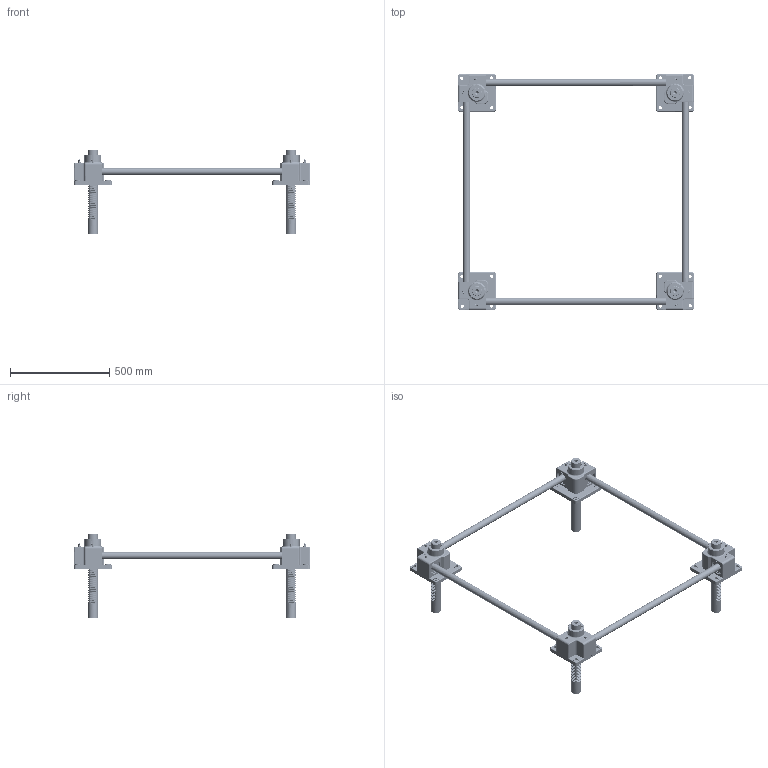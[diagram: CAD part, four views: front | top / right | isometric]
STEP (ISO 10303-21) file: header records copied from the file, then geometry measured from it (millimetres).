
FILE_DESCRIPTION(('STEP AP203'),'1');
FILE_NAME('SP10000-1000x1000-250ST.stp','2016-08-05T05:03:37',(' '),(' '),'Spatial InterOp 3D',' ',' ');
FILE_SCHEMA(('CONFIG_CONTROL_DESIGN'));
Length unit declared in the file: millimetre
Products named in the file (72): SP10000-1000x1000-250ST; Rack Gear(SP-10000); Body.1-Part; SnapRing-68Pie; SnapRing-75Pie; #1849; #1866; #1883; #1900; Nipple; Gear Box.1(NSP-10000); RJ05-4SCJ-610X600-100ST_CAP; LABEL-B.1; ___; 파트18; __; Body.2-Part; #2168; #2185; #2202; #2219; Gear Box.2(NSP-10000); Body.3-Part; #2453; #2470; #2487; #2504; Gear Box.3(NSP-10000); Body.4-Part; #2738; #2755; #2772; #2789; Gear Box.4(NSP-10000); 파트51
Assembly tree (76 placements, depth 6):
  SP10000-1000x1000-250ST
    Rack Gear(SP-10000)  x4
    Body.1-Part
      SnapRing-68Pie
      SnapRing-68Pie
      SnapRing-75Pie
      SnapRing-75Pie
      #1849
      #1866
      #1883
      #1900
      Nipple
      Nipple
      Gear Box.1(NSP-10000)
      __
        ___
          RJ05-4SCJ-610X600-100ST_CAP
            LABEL-B.1
          파트18
    Body.2-Part
      Nipple
      Nipple
      SnapRing-68Pie
      SnapRing-68Pie
      SnapRing-75Pie
      SnapRing-75Pie
      #2168
      #2185
      #2202
      #2219
      Gear Box.2(NSP-10000)
      __
        ___
          RJ05-4SCJ-610X600-100ST_CAP
            LABEL-B.1
          파트18
    Body.3-Part
      Nipple
      Nipple
      SnapRing-68Pie
      SnapRing-68Pie
      SnapRing-75Pie
      SnapRing-75Pie
      #2453
      #2470
      #2487
      #2504
      Gear Box.3(NSP-10000)
      __
        ___
          RJ05-4SCJ-610X600-100ST_CAP
            LABEL-B.1
          파트18
    Body.4-Part
      Nipple
      Nipple
      SnapRing-68Pie
      SnapRing-68Pie
      SnapRing-75Pie
      SnapRing-75Pie
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Bounding box: 1191.19 x 1191.19 x 425 mm (x, y, z)
Volume: 12820071.5 mm3; surface area: 2014332.5 mm2
Topology: 84 solids, 84 shells, 9932 faces, 27239 edges, 17391 vertices
Faces by surface type: plane 7604, cylinder 1256, sphere 384, torus 248, extrusion 184, revolution 168, bspline 56, cone 32
Full cylindrical faces by diameter (mm): 3.817 x16, 4.211 x8, 4.8 x8, 8 x8, 9.886 x8, 16 x16, 18 x4, 29 x8, 30 x16, 35 x12, 39 x8, 44.54 x16, 50 x12, 55 x4, 60 x16, 62.72 x16, 65 x8, 68 x8, 72 x16, 72.4 x8, 75 x8, 84 x4
Entity records: 302242 total; most frequent: CARTESIAN_POINT 64777, ORIENTED_EDGE 49676, DIRECTION 45516, EDGE_CURVE 24838, VECTOR 20992, LINE 20808, VERTEX_POINT 16247, AXIS2_PLACEMENT_3D 12178
